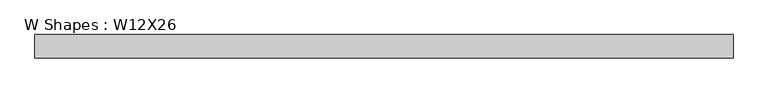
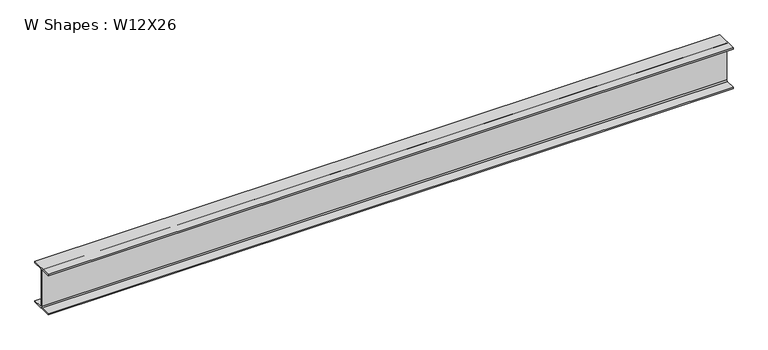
"""IFC4 building model written with IfcOpenShell, lengths in millimetres: beam geometry, W Shapes : W12X26."""

from ifc_helpers import new_model, si_unit, point, frame, frame_2d, origin, place, context, project, spatial, polyline, circle_curve, trimmed, segment, composite_curve, outline, extrude, source, transform, mapped, element, save


def w_shapes_w12x26_875e1df2(model_context):
    return source(origin(), model_context, "Body", "SweptSolid", [
        extrude(outline(composite_curve([segment(polyline([(82.423, -145.288), (82.423, -154.94), (-82.423, -154.94), (-82.423, -145.288), (-10.541, -145.288)]), True, "CONTINUOUS"), segment(trimmed(circle_curve(frame_2d((-10.541, -137.668)), 7.62), [point((-10.541, -145.288))], [point((-2.921, -137.668))], True, "CARTESIAN"), True, "CONTINUOUS"), segment(polyline([(-2.921, -137.668), (-2.921, 137.668)]), True, "CONTINUOUS"), segment(trimmed(circle_curve(frame_2d((-10.541, 137.668)), 7.62), [point((-2.921, 137.668))], [point((-10.541, 145.288))], True, "CARTESIAN"), True, "CONTINUOUS"), segment(polyline([(-10.541, 145.288), (-82.423, 145.288), (-82.423, 154.94), (82.423, 154.94), (82.423, 145.288), (10.541, 145.288)]), True, "CONTINUOUS"), segment(trimmed(circle_curve(frame_2d((10.541, 137.668)), 7.62), [point((10.541, 145.288))], [point((2.921, 137.668))], True, "CARTESIAN"), True, "CONTINUOUS"), segment(polyline([(2.921, 137.668), (2.921, -137.668)]), True, "CONTINUOUS"), segment(trimmed(circle_curve(frame_2d((10.541, -137.668)), 7.62), [point((2.921, -137.668))], [point((10.541, -145.288))], True, "CARTESIAN"), True, "CONTINUOUS"), segment(polyline([(10.541, -145.288), (82.423, -145.288)]), True, "CONTINUOUS")], self_intersect=False)), frame((-2455.5405929, 0.0, 0.0), z_axis=(1.0, 0.0, 0.0), x_axis=(0.0, 1.0, 0.0)), (0.0, 0.0, 1.0), 4949.8271816),
    ])


if __name__ == "__main__":
    model = new_model("IFC4")
    model_context = context("Model", 3, world=origin())
    ifc_project = project(units=[si_unit("LENGTHUNIT", "METRE", prefix="MILLI")], contexts=[model_context])
    site = spatial("IfcSite", under=ifc_project)
    building = spatial("IfcBuilding", under=site)
    placement = place(None, origin())
    w_shapes_w12x26_shape = w_shapes_w12x26_875e1df2(model_context)
    element("IfcBeam", 1, ObjectType="W Shapes : W12X26", at=placement, inside=building, context=model_context, shape_type="MappedRepresentation", body=[
        mapped(w_shapes_w12x26_shape, transform((0.0, 0.0, 0.0), x_axis=(1.0, 0.0, 0.0), y_axis=(0.0, 1.0, 0.0), z_axis=(0.0, 0.0, 1.0))),
    ])
    save(model, "model.ifc")
